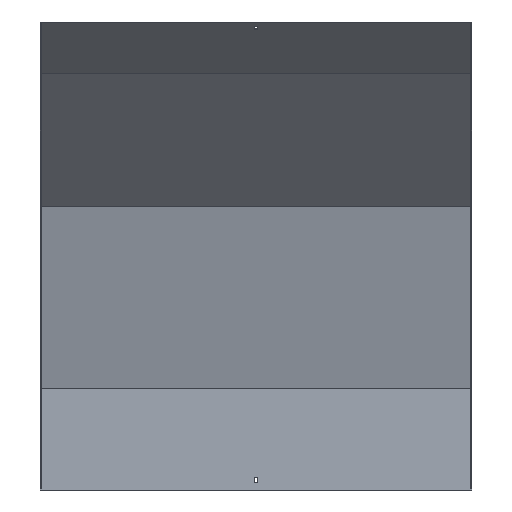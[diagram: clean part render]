
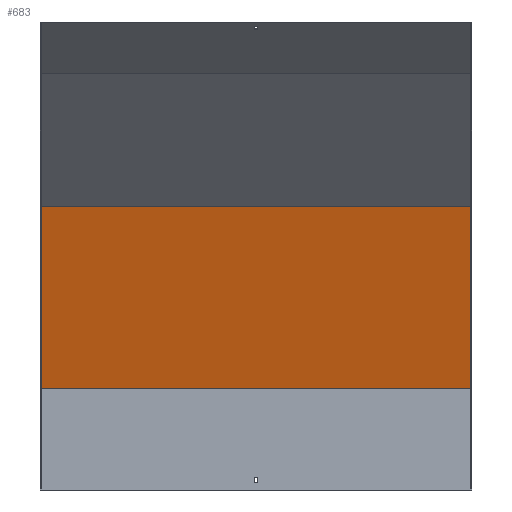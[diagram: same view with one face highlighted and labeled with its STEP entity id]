
A CAD part, front view. The second image highlights one B-rep face of the part: STEP entity #683.
In plain terms, the highlighted planar face has unit normal (0, -0.966, -0.259).
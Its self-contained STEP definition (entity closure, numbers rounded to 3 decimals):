
#81 = CARTESIAN_POINT ( 'NONE',  ( 350., 58.62, 15.707 ) ) ;
#139 = EDGE_CURVE ( 'NONE', #818, #809, #616, .T. ) ;
#150 = LINE ( 'NONE', #81, #638 ) ;
#182 = ORIENTED_EDGE ( 'NONE', *, *, #519, .F. ) ;
#191 = VECTOR ( 'NONE', #821, 1000. ) ;
#197 = CARTESIAN_POINT ( 'NONE',  ( 351.5, 17.87, 167.788 ) ) ;
#221 = CARTESIAN_POINT ( 'NONE',  ( -350., 58.62, 15.707 ) ) ;
#306 = AXIS2_PLACEMENT_3D ( 'NONE', #197, #422, #495 ) ;
#314 = CARTESIAN_POINT ( 'NONE',  ( -350., 18.5, 165.436 ) ) ;
#341 = EDGE_CURVE ( 'NONE', #818, #415, #150, .T. ) ;
#353 = FACE_OUTER_BOUND ( 'NONE', #459, .T. ) ;
#410 = ORIENTED_EDGE ( 'NONE', *, *, #341, .T. ) ;
#415 = VERTEX_POINT ( 'NONE', #881 ) ;
#422 = DIRECTION ( 'NONE',  ( 0., -0.966, -0.259 ) ) ;
#459 = EDGE_LOOP ( 'NONE', ( #182, #598, #410, #632 ) ) ;
#495 = DIRECTION ( 'NONE',  ( 0., 0.259, -0.966 ) ) ;
#519 = EDGE_CURVE ( 'NONE', #809, #930, #910, .T. ) ;
#564 = VECTOR ( 'NONE', #784, 1000. ) ;
#581 = LINE ( 'NONE', #888, #690 ) ;
#598 = ORIENTED_EDGE ( 'NONE', *, *, #139, .F. ) ;
#616 = LINE ( 'NONE', #861, #564 ) ;
#632 = ORIENTED_EDGE ( 'NONE', *, *, #716, .T. ) ;
#638 = VECTOR ( 'NONE', #666, 1000. ) ;
#644 = PLANE ( 'NONE',  #306 ) ;
#666 = DIRECTION ( 'NONE',  ( 0., -0.259, 0.966 ) ) ;
#683 = ADVANCED_FACE ( 'NONE', ( #353 ), #644, .T. ) ;
#690 = VECTOR ( 'NONE', #814, 1000. ) ;
#716 = EDGE_CURVE ( 'NONE', #415, #930, #581, .T. ) ;
#784 = DIRECTION ( 'NONE',  ( -1., 0., 0. ) ) ;
#809 = VERTEX_POINT ( 'NONE', #314 ) ;
#814 = DIRECTION ( 'NONE',  ( -1., 0., 0. ) ) ;
#818 = VERTEX_POINT ( 'NONE', #834 ) ;
#821 = DIRECTION ( 'NONE',  ( 0., -0.259, 0.966 ) ) ;
#834 = CARTESIAN_POINT ( 'NONE',  ( 350., 18.5, 165.436 ) ) ;
#861 = CARTESIAN_POINT ( 'NONE',  ( 351.5, 18.5, 165.436 ) ) ;
#881 = CARTESIAN_POINT ( 'NONE',  ( 350., -60.8, 461.388 ) ) ;
#888 = CARTESIAN_POINT ( 'NONE',  ( 351.5, -60.8, 461.388 ) ) ;
#910 = LINE ( 'NONE', #221, #191 ) ;
#930 = VERTEX_POINT ( 'NONE', #931 ) ;
#931 = CARTESIAN_POINT ( 'NONE',  ( -350., -60.8, 461.388 ) ) ;
